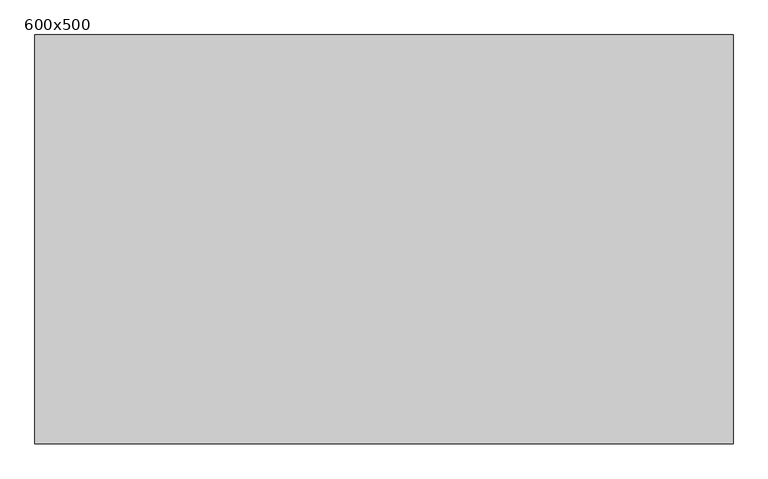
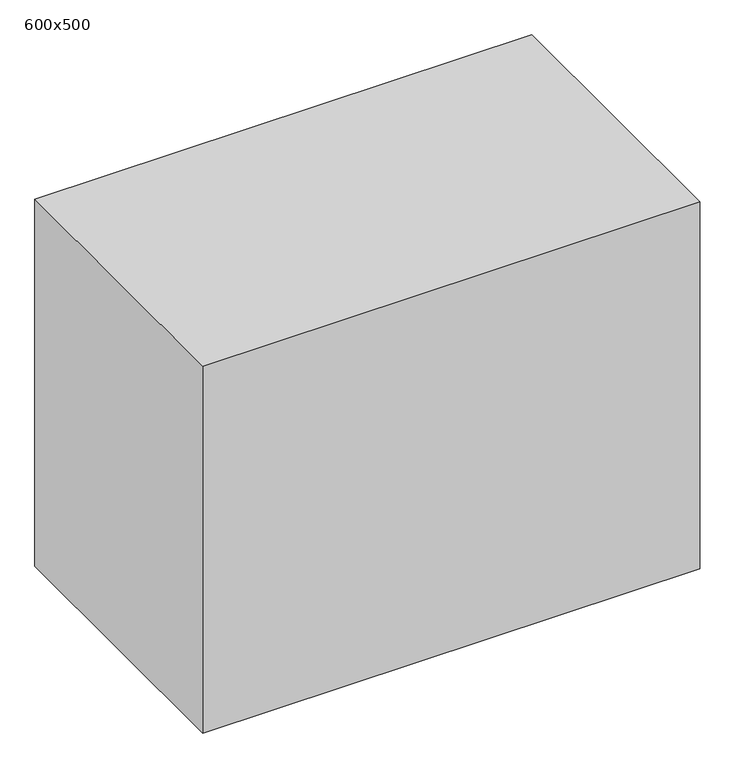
"""IFC4 building model written with IfcOpenShell, lengths in millimetres: flow terminal geometry, SP_раковина_LEG_настраиваемая : 600x500."""

from ifc_helpers import new_model, si_unit, origin, origin_with_axes, place, context, project, spatial, polyline, outline, extrude, source, transform, mapped, element, save


def flow_terminal_600x500_bbc3c571(model_context):
    return source(origin(), model_context, "Body", "SweptSolid", [
        extrude(outline(polyline([(512.5, 0.0), (512.5, -600.0), (-512.5, -600.0), (-512.5, 0.0), (512.5, 0.0)])), origin_with_axes(), (0.0, 0.0, 1.0), 800.0),
    ])


if __name__ == "__main__":
    model = new_model("IFC4")
    model_context = context("Model", 3, world=origin())
    ifc_project = project(units=[si_unit("LENGTHUNIT", "METRE", prefix="MILLI")], contexts=[model_context])
    site = spatial("IfcSite", under=ifc_project)
    building = spatial("IfcBuilding", under=site)
    placement = place(None, origin())
    flow_terminal_600x500_shape = flow_terminal_600x500_bbc3c571(model_context)
    element("IfcFlowTerminal", 1, ObjectType="SP_раковина_LEG_настраиваемая : 600x500", at=placement, inside=building, context=model_context, shape_type="MappedRepresentation", body=[
        mapped(flow_terminal_600x500_shape, transform((0.0, 0.0, 0.0), x_axis=(1.0, 0.0, 0.0), y_axis=(0.0, 1.0, 0.0), z_axis=(0.0, 0.0, 1.0))),
    ])
    save(model, "model.ifc")
